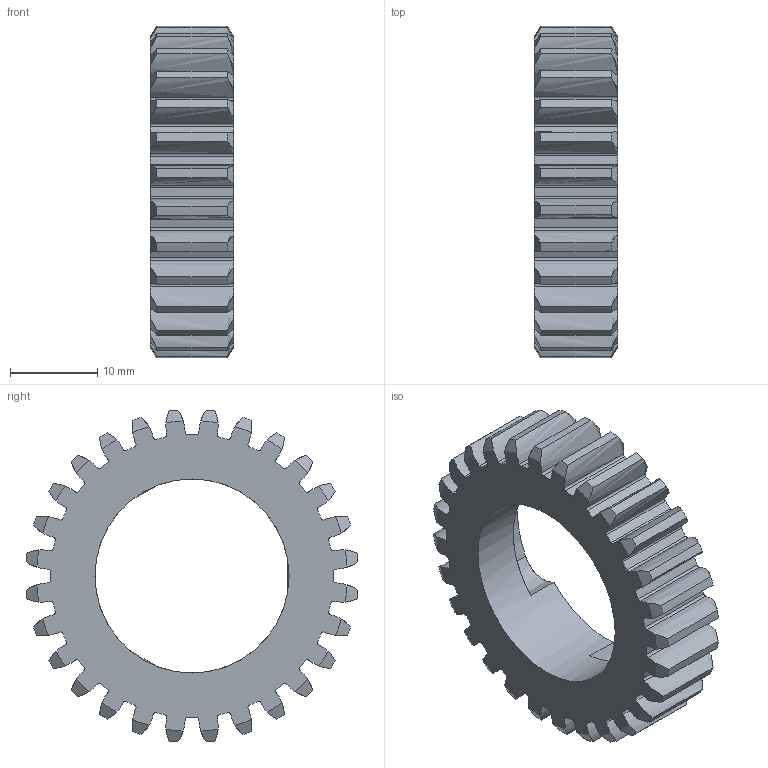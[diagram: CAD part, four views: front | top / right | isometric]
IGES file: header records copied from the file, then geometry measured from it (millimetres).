
Global section: file name: No Iges File Name specified; native system: AutoDesk Inventor R6.0; preprocessor: AutoDesk Inventor Iges Exporter R6.0; author: No Author specified; organization: No Organization specified; date: 20080103.183103; units: inch
Bounding box: 9.53 x 37.96 x 37.96 mm (x, y, z)
Surface area: 4054 mm2 (no closed solid volume)
Topology: 0 solids, 0 shells, 239 faces, 1420 edges, 1419 vertices
Faces by surface type: revolution 228, bspline 6, plane 5
